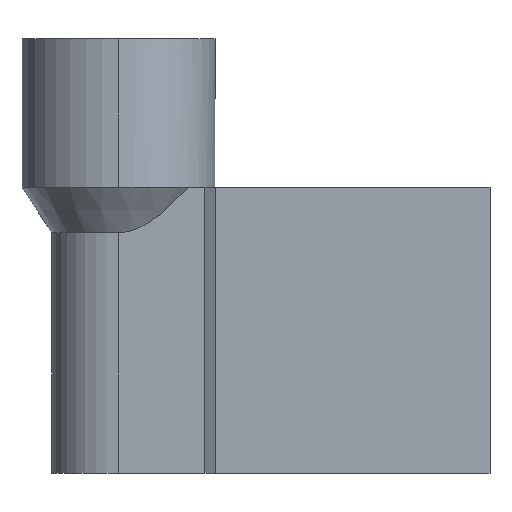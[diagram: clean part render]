
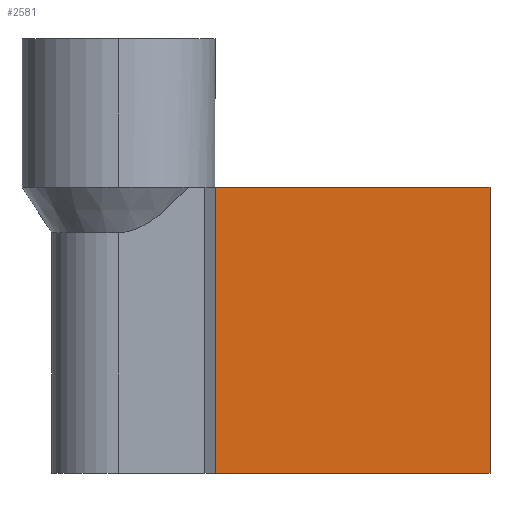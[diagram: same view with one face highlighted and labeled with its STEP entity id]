
A CAD part, front view. The second image highlights one B-rep face of the part: STEP entity #2581.
In plain terms, the highlighted planar face has unit normal (0, -1, 0).
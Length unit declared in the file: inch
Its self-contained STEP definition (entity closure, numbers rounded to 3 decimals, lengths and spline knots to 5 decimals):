
#579=DIRECTION('',(-1.,0.,0.));
#580=VECTOR('',#579,0.369);
#581=CARTESIAN_POINT('',(0.5,-0.0985,0.));
#582=LINE('',#581,#580);
#800=DIRECTION('',(-1.,0.,0.));
#801=VECTOR('',#800,0.369);
#802=CARTESIAN_POINT('',(0.5,-0.0985,-0.385));
#803=LINE('',#802,#801);
#845=DIRECTION('',(0.,0.,1.));
#846=VECTOR('',#845,0.385);
#847=CARTESIAN_POINT('',(0.131,-0.0985,-0.385));
#848=LINE('',#847,#846);
#849=DIRECTION('',(0.,0.,1.));
#850=VECTOR('',#849,0.385);
#851=CARTESIAN_POINT('',(0.5,-0.0985,-0.385));
#852=LINE('',#851,#850);
#1178=CARTESIAN_POINT('',(0.5,-0.0985,-0.385));
#1179=CARTESIAN_POINT('',(0.131,-0.0985,-0.385));
#1180=VERTEX_POINT('',#1178);
#1181=VERTEX_POINT('',#1179);
#1190=CARTESIAN_POINT('',(0.5,-0.0985,0.));
#1191=CARTESIAN_POINT('',(0.131,-0.0985,0.));
#1192=VERTEX_POINT('',#1190);
#1193=VERTEX_POINT('',#1191);
#2570=CARTESIAN_POINT('',(0.5,-0.0985,-0.385));
#2571=DIRECTION('',(0.,-1.,0.));
#2572=DIRECTION('',(-1.,0.,0.));
#2573=AXIS2_PLACEMENT_3D('',#2570,#2571,#2572);
#2574=PLANE('',#2573);
#2575=ORIENTED_EDGE('',*,*,#2459,.T.);
#2576=ORIENTED_EDGE('',*,*,#2565,.T.);
#2577=ORIENTED_EDGE('',*,*,#2226,.F.);
#2578=ORIENTED_EDGE('',*,*,#2346,.F.);
#2579=EDGE_LOOP('',(#2575,#2576,#2577,#2578));
#2580=FACE_OUTER_BOUND('',#2579,.F.);
#2581=ADVANCED_FACE('',(#2580),#2574,.T.);
#2226=EDGE_CURVE('',#1192,#1193,#582,.T.);
#2346=EDGE_CURVE('',#1180,#1192,#852,.T.);
#2459=EDGE_CURVE('',#1180,#1181,#803,.T.);
#2565=EDGE_CURVE('',#1181,#1193,#848,.T.);
